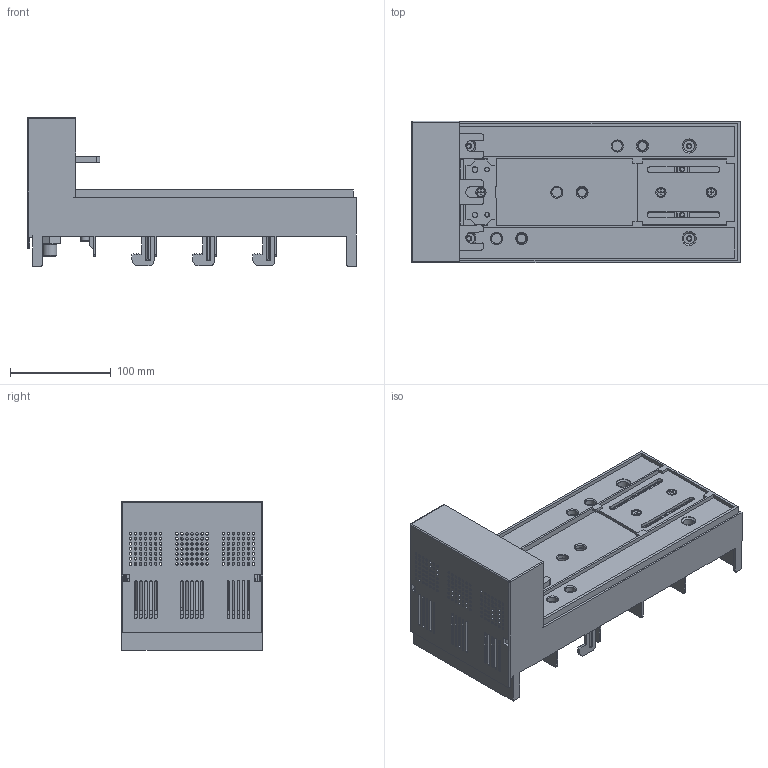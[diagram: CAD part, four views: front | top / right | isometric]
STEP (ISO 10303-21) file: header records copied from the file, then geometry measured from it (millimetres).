
FILE_DESCRIPTION (( 'STEP AP203' ), '1' );
FILE_NAME ('55038.STEP', '2021-08-28T01:04:59', ( '' ), ( '' ), 'SwSTEP 2.0', 'SolidWorks 2017', '' );
FILE_SCHEMA (( 'CONFIG_CONTROL_DESIGN' ));
Products named in the file (2): 55038
Bounding box: 327 x 140.5 x 148 mm (x, y, z)
Volume: 1722657.3 mm3; surface area: 428306.1 mm2
Topology: 47 solids, 50 shells, 4303 faces, 11583 edges, 7441 vertices
Faces by surface type: plane 3354, cylinder 708, bspline 138, cone 86, torus 11, sphere 6
Full cylindrical faces by diameter (mm): 1.2 x8, 2.5 x147, 4 x5, 4.2 x8, 4.5 x3, 5.2 x2, 5.5 x4, 8 x7, 8.5 x8, 9.5 x2, 10 x10, 11 x7, 12 x15, 12.4 x3, 14 x12, 18 x3, 20 x3, 27.4 x3
Entity records: 142738 total; most frequent: CARTESIAN_POINT 36733, ORIENTED_EDGE 22372, DIRECTION 20274, EDGE_CURVE 11186, LINE 8956, VECTOR 8956, VERTEX_POINT 7393, AXIS2_PLACEMENT_3D 5659
